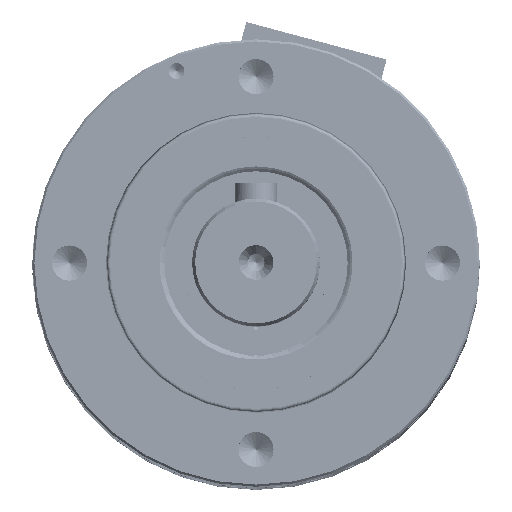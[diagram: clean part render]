
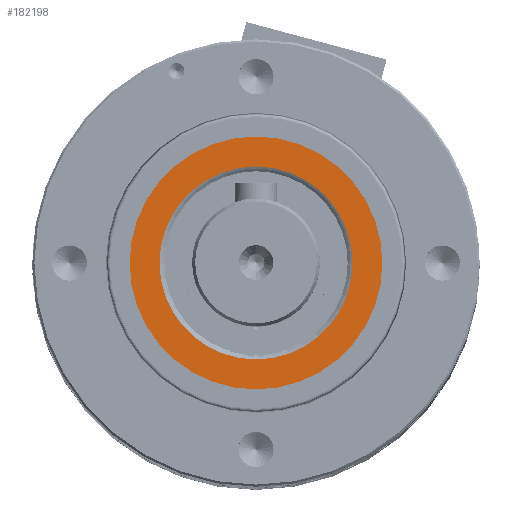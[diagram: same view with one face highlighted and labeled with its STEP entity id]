
A CAD part, top view. The second image highlights one B-rep face of the part: STEP entity #182198.
In plain terms, the highlighted planar face has unit normal (0, 0, 1).
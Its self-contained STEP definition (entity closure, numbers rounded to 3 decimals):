
#1020 = ORIENTED_EDGE ( 'NONE', *, *, #266468, .F. ) ;
#1912 = CARTESIAN_POINT ( 'NONE',  ( 16.996, -8.599, 153.185 ) ) ;
#7457 = CARTESIAN_POINT ( 'NONE',  ( -6.734, -8.599, 153.185 ) ) ;
#17875 = DIRECTION ( 'NONE',  ( 1., 0., 0. ) ) ;
#21542 = ORIENTED_EDGE ( 'NONE', *, *, #80487, .T. ) ;
#27949 = DIRECTION ( 'NONE',  ( 0., 0., 1. ) ) ;
#32567 = CARTESIAN_POINT ( 'NONE',  ( -3.929, -8.599, 153.185 ) ) ;
#36018 = EDGE_CURVE ( 'NONE', #275776, #196310, #124895, .T. ) ;
#41484 = DIRECTION ( 'NONE',  ( 1., 0., 0. ) ) ;
#63567 = AXIS2_PLACEMENT_3D ( 'NONE', #122745, #27949, #350115 ) ;
#73649 = FACE_BOUND ( 'NONE', #141553, .T. ) ;
#76933 = CIRCLE ( 'NONE', #319149, 11.865 ) ;
#78552 = DIRECTION ( 'NONE',  ( 0., 0., 1. ) ) ;
#80487 = EDGE_CURVE ( 'NONE', #141770, #308538, #299701, .T. ) ;
#88909 = DIRECTION ( 'NONE',  ( 0., 0., -1. ) ) ;
#99904 = DIRECTION ( 'NONE',  ( 1., 0., 0. ) ) ;
#100294 = FACE_OUTER_BOUND ( 'NONE', #251323, .T. ) ;
#115389 = DIRECTION ( 'NONE',  ( 1., 0., 0. ) ) ;
#122745 = CARTESIAN_POINT ( 'NONE',  ( 5.131, -8.599, 153.185 ) ) ;
#124895 = CIRCLE ( 'NONE', #185669, 9.06 ) ;
#128293 = DIRECTION ( 'NONE',  ( 0., 0., -1. ) ) ;
#141553 = EDGE_LOOP ( 'NONE', ( #164867, #361907 ) ) ;
#141770 = VERTEX_POINT ( 'NONE', #1912 ) ;
#153441 = CARTESIAN_POINT ( 'NONE',  ( 14.191, -8.599, 153.185 ) ) ;
#157262 = EDGE_CURVE ( 'NONE', #275776, #196310, #341800, .T. ) ;
#164867 = ORIENTED_EDGE ( 'NONE', *, *, #157262, .F. ) ;
#182198 = ADVANCED_FACE ( 'NONE', ( #73649, #100294 ), #331442, .T. ) ;
#185669 = AXIS2_PLACEMENT_3D ( 'NONE', #369350, #88909, #115389 ) ;
#196310 = VERTEX_POINT ( 'NONE', #32567 ) ;
#211237 = AXIS2_PLACEMENT_3D ( 'NONE', #301231, #269160, #41484 ) ;
#251323 = EDGE_LOOP ( 'NONE', ( #1020, #21542 ) ) ;
#266468 = EDGE_CURVE ( 'NONE', #141770, #308538, #76933, .T. ) ;
#269160 = DIRECTION ( 'NONE',  ( 0., 0., 1. ) ) ;
#275776 = VERTEX_POINT ( 'NONE', #153441 ) ;
#283312 = CARTESIAN_POINT ( 'NONE',  ( 5.131, -8.599, 153.185 ) ) ;
#299701 = CIRCLE ( 'NONE', #311852, 11.865 ) ;
#301231 = CARTESIAN_POINT ( 'NONE',  ( 5.131, -8.599, 153.185 ) ) ;
#302653 = CARTESIAN_POINT ( 'NONE',  ( 5.131, -8.599, 153.185 ) ) ;
#308538 = VERTEX_POINT ( 'NONE', #7457 ) ;
#311852 = AXIS2_PLACEMENT_3D ( 'NONE', #283312, #78552, #17875 ) ;
#319149 = AXIS2_PLACEMENT_3D ( 'NONE', #302653, #128293, #99904 ) ;
#331442 = PLANE ( 'NONE',  #211237 ) ;
#341800 = CIRCLE ( 'NONE', #63567, 9.06 ) ;
#350115 = DIRECTION ( 'NONE',  ( 1., 0., 0. ) ) ;
#361907 = ORIENTED_EDGE ( 'NONE', *, *, #36018, .T. ) ;
#369350 = CARTESIAN_POINT ( 'NONE',  ( 5.131, -8.599, 153.185 ) ) ;
